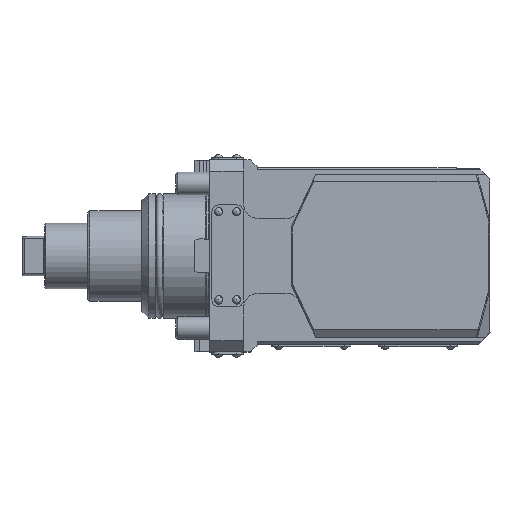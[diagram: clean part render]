
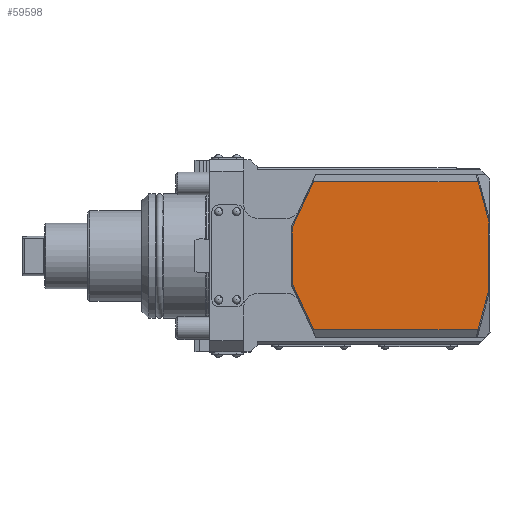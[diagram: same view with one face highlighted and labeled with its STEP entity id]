
A CAD part, top view. The second image highlights one B-rep face of the part: STEP entity #59598.
In plain terms, the highlighted planar face has unit normal (0, 0, 1) as drawn and (-1, 0, 0) by its records, which use the part's own axes.
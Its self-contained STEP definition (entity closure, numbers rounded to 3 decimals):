
#26304=ORIENTED_EDGE('',*,*,#34983,.F.);
#26305=ORIENTED_EDGE('',*,*,#34999,.F.);
#26306=ORIENTED_EDGE('',*,*,#35000,.F.);
#26307=ORIENTED_EDGE('',*,*,#35001,.F.);
#26308=ORIENTED_EDGE('',*,*,#34994,.F.);
#26309=ORIENTED_EDGE('',*,*,#35002,.F.);
#26310=ORIENTED_EDGE('',*,*,#35003,.F.);
#26311=ORIENTED_EDGE('',*,*,#35004,.F.);
#30224=VECTOR('',#40475,1.);
#30235=VECTOR('',#40490,1.);
#30240=VECTOR('',#40497,1.);
#30241=VECTOR('',#40498,1.);
#30242=VECTOR('',#40499,1.);
#30243=VECTOR('',#40500,1.);
#30244=VECTOR('',#40501,1.);
#30245=VECTOR('',#40502,1.);
#31648=LINE('',#51525,#30224);
#31659=LINE('',#51548,#30235);
#31664=LINE('',#51557,#30240);
#31665=LINE('',#51559,#30241);
#31666=LINE('',#51560,#30242);
#31667=LINE('',#51562,#30243);
#31668=LINE('',#51564,#30244);
#31669=LINE('',#51565,#30245);
#33230=VERTEX_POINT('',#51522);
#33231=VERTEX_POINT('',#51524);
#33240=VERTEX_POINT('',#51546);
#33241=VERTEX_POINT('',#51547);
#33244=VERTEX_POINT('',#51556);
#33245=VERTEX_POINT('',#51558);
#33246=VERTEX_POINT('',#51561);
#33247=VERTEX_POINT('',#51563);
#34983=EDGE_CURVE('',#33230,#33231,#31648,.T.);
#34994=EDGE_CURVE('',#33240,#33241,#31659,.T.);
#34999=EDGE_CURVE('',#33244,#33230,#31664,.T.);
#35000=EDGE_CURVE('',#33245,#33244,#31665,.T.);
#35001=EDGE_CURVE('',#33241,#33245,#31666,.T.);
#35002=EDGE_CURVE('',#33246,#33240,#31667,.T.);
#35003=EDGE_CURVE('',#33247,#33246,#31668,.T.);
#35004=EDGE_CURVE('',#33231,#33247,#31669,.T.);
#37147=EDGE_LOOP('',(#26304,#26305,#26306,#26307,#26308,#26309,#26310,#26311));
#38454=FACE_BOUND('',#37147,.T.);
#40475=DIRECTION('',(0.,-72.709,0.));
#40490=DIRECTION('',(0.,72.709,0.));
#40495=DIRECTION('',(-1.,0.,0.));
#40496=DIRECTION('',(0.,1.,0.));
#40497=DIRECTION('',(0.,-9.524,20.425));
#40498=DIRECTION('',(0.,0.,24.599));
#40499=DIRECTION('',(0.,9.524,20.425));
#40500=DIRECTION('',(0.,4.767,-17.79));
#40501=DIRECTION('',(0.,0.,-29.868));
#40502=DIRECTION('',(0.,-4.767,-17.79));
#51522=CARTESIAN_POINT('',(46.381,126.198,32.724));
#51524=CARTESIAN_POINT('',(46.381,53.489,32.724));
#51525=CARTESIAN_POINT('',(46.381,126.198,32.724));
#51546=CARTESIAN_POINT('',(46.381,53.489,-32.724));
#51547=CARTESIAN_POINT('',(46.381,126.198,-32.724));
#51548=CARTESIAN_POINT('',(46.381,53.489,-32.724));
#51555=CARTESIAN_POINT('',(46.381,48.222,0.));
#51556=CARTESIAN_POINT('',(46.381,135.722,12.3));
#51557=CARTESIAN_POINT('',(46.381,135.722,12.3));
#51558=CARTESIAN_POINT('',(46.381,135.722,-12.3));
#51559=CARTESIAN_POINT('',(46.381,135.722,-12.3));
#51560=CARTESIAN_POINT('',(46.381,126.198,-32.724));
#51561=CARTESIAN_POINT('',(46.381,48.722,-14.934));
#51562=CARTESIAN_POINT('',(46.381,48.722,-14.934));
#51563=CARTESIAN_POINT('',(46.381,48.722,14.934));
#51564=CARTESIAN_POINT('',(46.381,48.722,14.934));
#51565=CARTESIAN_POINT('',(46.381,53.489,32.724));
#57321=AXIS2_PLACEMENT_3D('',#51555,#40495,#40496);
#58814=PLANE('',#57321);
#59598=ADVANCED_FACE('',(#38454),#58814,.T.);
